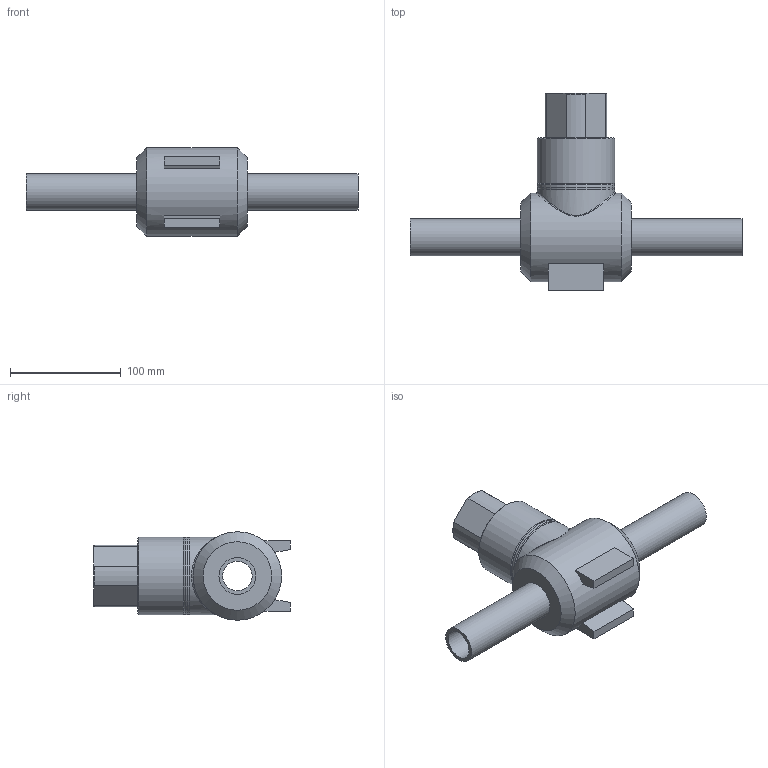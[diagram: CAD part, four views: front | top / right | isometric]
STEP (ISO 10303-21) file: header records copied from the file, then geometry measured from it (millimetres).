
FILE_DESCRIPTION(/* description */ ('PLASSON PE BALL VALVE 1IPS'''''),/* implementation_level */ '2;1');
FILE_NAME(/* name */ 'C:\Dropbox\KIMPROJECTS-Inventor 2019\99-16-3568-Processing Inch\ASTM ElectroFusion 2021\536207\536207010.ipt.stp',/* time_stamp */ '2021-08-30T09:48:05+03:00',/* author */ ('Кирилл'),/* organization */ (''),/* preprocessor_version */ 'ST-DEVELOPER v17.2',/* originating_system */ 'Autodesk Inventor 2019',/* authorisation */ '');
FILE_SCHEMA (('AUTOMOTIVE_DESIGN { 1 0 10303 214 3 1 1 }'));
Length unit declared in the file: inch
Products named in the file (1): 536207010
Bounding box: 300 x 178 x 80 mm (x, y, z)
Volume: 767593 mm3; surface area: 103842.7 mm2
Topology: 1 solids, 1 shells, 43 faces, 122 edges, 86 vertices
Faces by surface type: plane 20, cylinder 12, cone 7, torus 2, bspline 1, sphere 1
Full cylindrical faces by diameter (mm): 26.7 x2, 33.3 x2, 70 x3, 80 x1
Entity records: 1696 total; most frequent: CARTESIAN_POINT 485, DIRECTION 258, ORIENTED_EDGE 242, EDGE_CURVE 121, AXIS2_PLACEMENT_3D 105, VERTEX_POINT 87, CIRCLE 62, EDGE_LOOP 52
